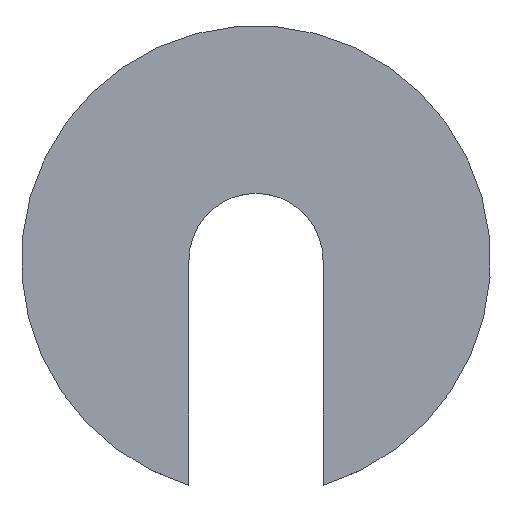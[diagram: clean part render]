
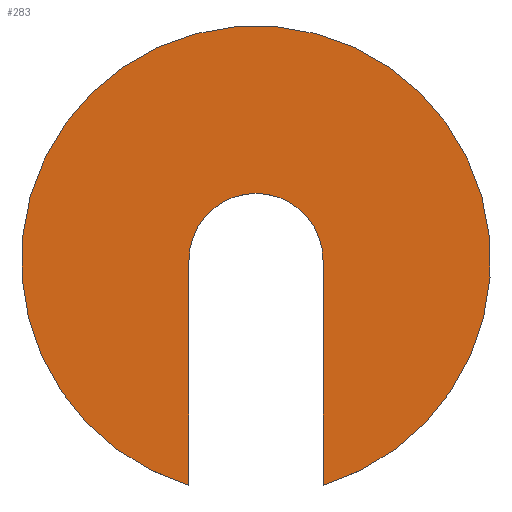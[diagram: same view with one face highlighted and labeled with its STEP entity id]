
A CAD part, top view. The second image highlights one B-rep face of the part: STEP entity #283.
In plain terms, the highlighted planar face has unit normal (0, 0, 1).
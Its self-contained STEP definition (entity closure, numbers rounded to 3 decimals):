
#33 = CYLINDRICAL_SURFACE('',#34,4.2);
#34 = AXIS2_PLACEMENT_3D('',#35,#36,#37);
#35 = CARTESIAN_POINT('',(84.75,13.,-6.));
#36 = DIRECTION('',(0.,0.,1.));
#37 = DIRECTION('',(1.,0.,-0.));
#58 = VERTEX_POINT('',#59);
#59 = CARTESIAN_POINT('',(83.55,8.975,-5.8));
#72 = PLANE('',#73);
#73 = AXIS2_PLACEMENT_3D('',#74,#75,#76);
#74 = CARTESIAN_POINT('',(83.55,7.8,-7.));
#75 = DIRECTION('',(1.,0.,-0.));
#76 = DIRECTION('',(0.,0.,1.));
#83 = EDGE_CURVE('',#58,#84,#86,.T.);
#84 = VERTEX_POINT('',#85);
#85 = CARTESIAN_POINT('',(85.95,8.975,-5.8));
#86 = SURFACE_CURVE('',#87,(#92,#99),.PCURVE_S1.);
#87 = CIRCLE('',#88,4.2);
#88 = AXIS2_PLACEMENT_3D('',#89,#90,#91);
#89 = CARTESIAN_POINT('',(84.75,13.,-5.8));
#90 = DIRECTION('',(-0.,0.,-1.));
#91 = DIRECTION('',(-0.286,-0.958,0.));
#92 = PCURVE('',#33,#93);
#93 = DEFINITIONAL_REPRESENTATION('',(#94),#98);
#94 = LINE('',#95,#96);
#95 = CARTESIAN_POINT('',(10.706,0.2));
#96 = VECTOR('',#97,1.);
#97 = DIRECTION('',(-1.,-0.));
#98 = ( GEOMETRIC_REPRESENTATION_CONTEXT(2) 
PARAMETRIC_REPRESENTATION_CONTEXT() REPRESENTATION_CONTEXT('2D SPACE',''
  ) );
#99 = PCURVE('',#100,#105);
#100 = PLANE('',#101);
#101 = AXIS2_PLACEMENT_3D('',#102,#103,#104);
#102 = CARTESIAN_POINT('',(84.75,13.,-5.8));
#103 = DIRECTION('',(0.,0.,1.));
#104 = DIRECTION('',(1.,0.,-0.));
#105 = DEFINITIONAL_REPRESENTATION('',(#106),#114);
#106 = ( BOUNDED_CURVE() B_SPLINE_CURVE(2,(#107,#108,#109,#110,#111,#112
,#113),.UNSPECIFIED.,.T.,.F.) B_SPLINE_CURVE_WITH_KNOTS((1,2,2,2,2,1),(
    -2.094,0.,2.094,4.189,6.283,
8.378),.UNSPECIFIED.) CURVE() GEOMETRIC_REPRESENTATION_ITEM() 
RATIONAL_B_SPLINE_CURVE((1.,0.5,1.,0.5,1.,0.5,1.)) REPRESENTATION_ITEM(
  '') );
#107 = CARTESIAN_POINT('',(-1.2,-4.025));
#108 = CARTESIAN_POINT('',(-8.171,-1.946));
#109 = CARTESIAN_POINT('',(-2.886,3.052));
#110 = CARTESIAN_POINT('',(2.4,8.05));
#111 = CARTESIAN_POINT('',(4.086,0.973));
#112 = CARTESIAN_POINT('',(5.771,-6.103));
#113 = CARTESIAN_POINT('',(-1.2,-4.025));
#114 = ( GEOMETRIC_REPRESENTATION_CONTEXT(2) 
PARAMETRIC_REPRESENTATION_CONTEXT() REPRESENTATION_CONTEXT('2D SPACE',''
  ) );
#129 = PLANE('',#130);
#130 = AXIS2_PLACEMENT_3D('',#131,#132,#133);
#131 = CARTESIAN_POINT('',(85.95,7.8,-7.));
#132 = DIRECTION('',(1.,0.,-0.));
#133 = DIRECTION('',(0.,0.,1.));
#146 = VERTEX_POINT('',#147);
#147 = CARTESIAN_POINT('',(85.95,13.,-5.8));
#161 = CYLINDRICAL_SURFACE('',#162,1.2);
#162 = AXIS2_PLACEMENT_3D('',#163,#164,#165);
#163 = CARTESIAN_POINT('',(84.75,13.,-7.));
#164 = DIRECTION('',(0.,0.,1.));
#165 = DIRECTION('',(1.,0.,-0.));
#172 = EDGE_CURVE('',#84,#146,#173,.T.);
#173 = SURFACE_CURVE('',#174,(#178,#184),.PCURVE_S1.);
#174 = LINE('',#175,#176);
#175 = CARTESIAN_POINT('',(85.95,10.4,-5.8));
#176 = VECTOR('',#177,1.);
#177 = DIRECTION('',(-0.,1.,0.));
#178 = PCURVE('',#129,#179);
#179 = DEFINITIONAL_REPRESENTATION('',(#180),#183);
#180 = B_SPLINE_CURVE_WITH_KNOTS('',1,(#181,#182),.UNSPECIFIED.,.F.,.F.,
  (2,2),(-1.6,2.6),.PIECEWISE_BEZIER_KNOTS.);
#181 = CARTESIAN_POINT('',(1.2,-1.));
#182 = CARTESIAN_POINT('',(1.2,-5.2));
#183 = ( GEOMETRIC_REPRESENTATION_CONTEXT(2) 
PARAMETRIC_REPRESENTATION_CONTEXT() REPRESENTATION_CONTEXT('2D SPACE',''
  ) );
#184 = PCURVE('',#100,#185);
#185 = DEFINITIONAL_REPRESENTATION('',(#186),#189);
#186 = B_SPLINE_CURVE_WITH_KNOTS('',1,(#187,#188),.UNSPECIFIED.,.F.,.F.,
  (2,2),(-1.6,2.6),.PIECEWISE_BEZIER_KNOTS.);
#187 = CARTESIAN_POINT('',(1.2,-4.2));
#188 = CARTESIAN_POINT('',(1.2,0.));
#189 = ( GEOMETRIC_REPRESENTATION_CONTEXT(2) 
PARAMETRIC_REPRESENTATION_CONTEXT() REPRESENTATION_CONTEXT('2D SPACE',''
  ) );
#214 = EDGE_CURVE('',#146,#215,#217,.T.);
#215 = VERTEX_POINT('',#216);
#216 = CARTESIAN_POINT('',(83.55,13.,-5.8));
#217 = SURFACE_CURVE('',#218,(#223,#230),.PCURVE_S1.);
#218 = CIRCLE('',#219,1.2);
#219 = AXIS2_PLACEMENT_3D('',#220,#221,#222);
#220 = CARTESIAN_POINT('',(84.75,13.,-5.8));
#221 = DIRECTION('',(0.,0.,1.));
#222 = DIRECTION('',(1.,0.,-0.));
#223 = PCURVE('',#161,#224);
#224 = DEFINITIONAL_REPRESENTATION('',(#225),#229);
#225 = LINE('',#226,#227);
#226 = CARTESIAN_POINT('',(0.,1.2));
#227 = VECTOR('',#228,1.);
#228 = DIRECTION('',(1.,0.));
#229 = ( GEOMETRIC_REPRESENTATION_CONTEXT(2) 
PARAMETRIC_REPRESENTATION_CONTEXT() REPRESENTATION_CONTEXT('2D SPACE',''
  ) );
#230 = PCURVE('',#100,#231);
#231 = DEFINITIONAL_REPRESENTATION('',(#232),#236);
#232 = CIRCLE('',#233,1.2);
#233 = AXIS2_PLACEMENT_2D('',#234,#235);
#234 = CARTESIAN_POINT('',(0.,0.));
#235 = DIRECTION('',(1.,0.));
#236 = ( GEOMETRIC_REPRESENTATION_CONTEXT(2) 
PARAMETRIC_REPRESENTATION_CONTEXT() REPRESENTATION_CONTEXT('2D SPACE',''
  ) );
#283 = ADVANCED_FACE('',(#284),#100,.T.);
#284 = FACE_BOUND('',#285,.T.);
#285 = EDGE_LOOP('',(#286,#287,#288,#307));
#286 = ORIENTED_EDGE('',*,*,#172,.F.);
#287 = ORIENTED_EDGE('',*,*,#83,.F.);
#288 = ORIENTED_EDGE('',*,*,#289,.T.);
#289 = EDGE_CURVE('',#58,#215,#290,.T.);
#290 = SURFACE_CURVE('',#291,(#295,#301),.PCURVE_S1.);
#291 = LINE('',#292,#293);
#292 = CARTESIAN_POINT('',(83.55,10.4,-5.8));
#293 = VECTOR('',#294,1.);
#294 = DIRECTION('',(-0.,1.,0.));
#295 = PCURVE('',#100,#296);
#296 = DEFINITIONAL_REPRESENTATION('',(#297),#300);
#297 = B_SPLINE_CURVE_WITH_KNOTS('',1,(#298,#299),.UNSPECIFIED.,.F.,.F.,
  (2,2),(-1.6,2.6),.PIECEWISE_BEZIER_KNOTS.);
#298 = CARTESIAN_POINT('',(-1.2,-4.2));
#299 = CARTESIAN_POINT('',(-1.2,0.));
#300 = ( GEOMETRIC_REPRESENTATION_CONTEXT(2) 
PARAMETRIC_REPRESENTATION_CONTEXT() REPRESENTATION_CONTEXT('2D SPACE',''
  ) );
#301 = PCURVE('',#72,#302);
#302 = DEFINITIONAL_REPRESENTATION('',(#303),#306);
#303 = B_SPLINE_CURVE_WITH_KNOTS('',1,(#304,#305),.UNSPECIFIED.,.F.,.F.,
  (2,2),(-1.6,2.6),.PIECEWISE_BEZIER_KNOTS.);
#304 = CARTESIAN_POINT('',(1.2,-1.));
#305 = CARTESIAN_POINT('',(1.2,-5.2));
#306 = ( GEOMETRIC_REPRESENTATION_CONTEXT(2) 
PARAMETRIC_REPRESENTATION_CONTEXT() REPRESENTATION_CONTEXT('2D SPACE',''
  ) );
#307 = ORIENTED_EDGE('',*,*,#214,.F.);
